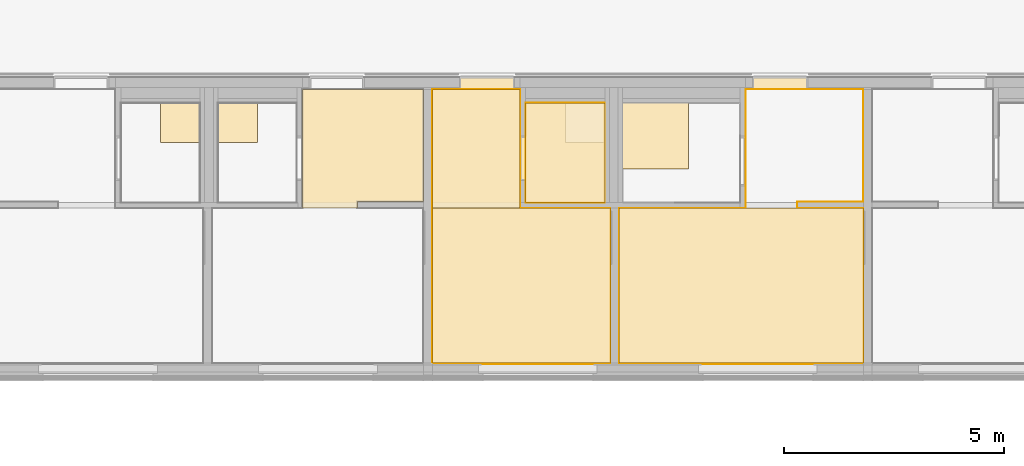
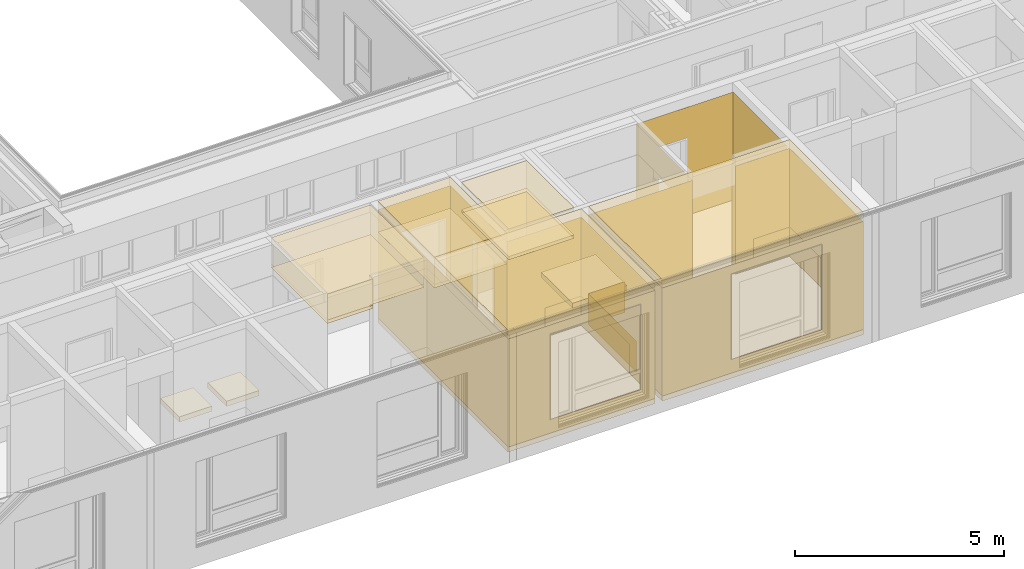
# One storey, part 185 of 222: 32 coverings.
"""IFC4 building model written with IfcOpenShell, lengths in metres."""

from ifc_helpers import new_model, entity, si_unit, converted_unit, derived_unit, frame, frame_2d, origin, origin_with_axes, place, context, subcontext, project, spatial, polyline, rectangle, outline, extrude, material, layer, layer_set, layer_usage, element, save


model = new_model("IFC4")

# Units and contexts
model_context = context("Model", 3, precision=1e-05, world=origin())
body_context = subcontext(model_context, "Body", "Model", "MODEL_VIEW")
ifc_project = project(units=[si_unit("LENGTHUNIT", "METRE"), si_unit("AREAUNIT", "SQUARE_METRE"), si_unit("VOLUMEUNIT", "CUBIC_METRE"), si_unit("MASSUNIT", "GRAM", prefix="KILO"), converted_unit("PLANEANGLEUNIT", "DEGREE", entity("IfcPlaneAngleMeasure", 0.0174532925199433), si_unit("PLANEANGLEUNIT", "RADIAN"), dimensions=[0, 0, 0, 0, 0, 0, 0]), derived_unit("THERMALTRANSMITTANCEUNIT", [(si_unit("POWERUNIT", "WATT"), 1), (si_unit("THERMODYNAMICTEMPERATUREUNIT", "KELVIN"), -1), (si_unit("LENGTHUNIT", "METRE"), -2)]), derived_unit("VOLUMETRICFLOWRATEUNIT", [(si_unit("LENGTHUNIT", "METRE"), 3), (converted_unit("TIMEUNIT", "hour", entity("IfcTimeMeasure", 3600.0), si_unit("TIMEUNIT", "SECOND"), dimensions=[0, 0, 1, 0, 0, 0, 0]), -1), (si_unit("LENGTHUNIT", "METRE"), -1)])], contexts=[model_context])

# Site, building, storey, space
site_placement = place(None, origin())
site = spatial("IfcSite", under=ifc_project, at=site_placement, Name="Psychiatrie Neubau Wunstorf", CompositionType="ELEMENT")
building_placement = place(site_placement, origin())
building = spatial("IfcBuilding", under=site, at=building_placement, Name="Neubau H2 Stationsgebäude", CompositionType="ELEMENT")
storey_placement = place(building_placement, frame((0.0, 0.0, 3.6)))
storey = spatial("IfcBuildingStorey", under=building, at=storey_placement, Name="H2 Ebene +1", CompositionType="ELEMENT", Elevation=3.6)
space_1_placement = place(storey_placement, frame((90.3499999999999, -1.16399999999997, 0.0)))
space_1 = spatial("IfcSpace", under=storey, at=space_1_placement, Name="WUN-H2-E01-092", CompositionType="ELEMENT")

# Coverings
ifc_material_1 = material(Name="84")
ifc_layer_1 = layer(ifc_material_1, 0.001)
ifc_layer_set_1 = layer_set([ifc_layer_1])
ifc_layer_usage_1 = layer_usage(ifc_layer_set_1, "AXIS3", "POSITIVE", 0.0)
covering_1_placement = place(space_1_placement, frame((0.0, 1.22449999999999, 0.1)))
element("IfcCovering", 1, at=covering_1_placement, inside=space_1, material=ifc_layer_usage_1, Name="Acrovyn", PredefinedType="CLADDING", context=body_context, shape_type="SweptSolid", body=[
    extrude(rectangle(XDim=1.0, YDim=0.9, at=frame_2d((0.5, -0.45), x_axis=(1.0, 0.0))), frame((1.0, 2.3, 0.0), z_axis=(0.0, -1.0, 0.0), x_axis=(-1.0, 0.0, 0.0)), (0.0, 0.0, 1.0), 0.001),
    extrude(rectangle(XDim=2.3, YDim=0.9, at=frame_2d((1.15, -0.45), x_axis=(1.0, 0.0))), frame((0.0, 2.3, 0.0), z_axis=(1.0, 0.0, 0.0), x_axis=(0.0, -1.0, 0.0)), (0.0, 0.0, 1.0), 0.001),
])
ifc_material_2 = material(Name="84")
ifc_layer_2 = layer(ifc_material_2, 0.001)
ifc_layer_set_2 = layer_set([ifc_layer_2])
ifc_layer_usage_2 = layer_usage(ifc_layer_set_2, "AXIS3", "POSITIVE", 0.0)
covering_2_placement = place(space_1_placement, frame((4.55000000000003, 1.2245, 0.1)))
element("IfcCovering", 2, at=covering_2_placement, inside=space_1, material=ifc_layer_usage_2, Name="Acrovyn", PredefinedType="CLADDING", context=body_context, shape_type="SweptSolid", body=[
    extrude(rectangle(XDim=0.9, YDim=1.0, at=frame_2d((-0.5, -0.45), x_axis=(0.0, -1.0))), frame((0.0, 2.3, 0.0), z_axis=(4.54747350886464e-16, -1.0, 0.0), x_axis=(-1.0, -4.54747350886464e-16, 0.0)), (0.0, 0.0, 1.0), 0.001),
    extrude(rectangle(XDim=0.9, YDim=2.3, at=frame_2d((-1.15, -0.45), x_axis=(0.0, -1.0))), frame((1.0, 2.3, 0.0), z_axis=(-1.0, 0.0, 0.0), x_axis=(0.0, 1.0, 0.0)), (0.0, 0.0, 1.0), 0.001),
])
ifc_material_3 = material(Name="Ku1")
ifc_layer_3 = layer(ifc_material_3, 0.15)
ifc_layer_set_3 = layer_set([ifc_layer_3])
ifc_layer_usage_3 = layer_usage(ifc_layer_set_3, "AXIS3", "POSITIVE", 0.0)
covering_3_placement = place(space_1_placement, origin())
element("IfcCovering", 3, at=covering_3_placement, inside=space_1, material=ifc_layer_usage_3, Name="PVC Bahnenware Holzoptik", PredefinedType="FLOORING", context=body_context, shape_type="SweptSolid", body=[
    extrude(rectangle(XDim=0.272, YDim=1.26, at=frame_2d((-0.63, 0.136), x_axis=(0.0, 1.0))), frame((4.28500004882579, 6.22450000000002, 0.0), z_axis=(0.0, 0.0, 1.0), x_axis=(1.0, 0.0, 0.0)), (0.0, 0.0, 1.0), 0.15),
    extrude(outline(polyline([(4.05000000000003, 3.52449999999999), (4.05000000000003, 3.67449999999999), (5.55000000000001, 3.67449999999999), (5.55000000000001, 6.22449999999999), (2.87500004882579, 6.22449999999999), (2.87500004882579, 3.52449999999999), (0.0, 3.52449999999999), (0.0, 0.0), (5.55000000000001, 0.0), (5.55000000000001, 3.52449999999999), (4.05000000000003, 3.52449999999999)])), origin_with_axes(), (0.0, 0.0, 1.0), 0.15),
])
ifc_material_4 = material()
ifc_layer_4 = layer(ifc_material_4, 0.036)
ifc_layer_set_4 = layer_set([ifc_layer_4])
ifc_layer_usage_4 = layer_usage(ifc_layer_set_4, "AXIS3", "POSITIVE", 0.0)
covering_4_placement = place(space_1_placement, frame((0.0, 0.0, 3.55)))
element("IfcCovering", 4, at=covering_4_placement, inside=space_1, material=ifc_layer_usage_4, Name="Gipsfaserplatten 2-lagig (BSK)", PredefinedType="CEILING", context=body_context, shape_type="SweptSolid", body=[
    extrude(rectangle(XDim=3.52449999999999, YDim=5.55000000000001, at=frame_2d((-2.77500000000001, 1.76224999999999), x_axis=(0.0, 1.0))), frame((5.55000000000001, 3.52449999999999, 0.0), z_axis=(0.0, 0.0, -1.0), x_axis=(1.0, 0.0, 0.0)), (0.0, 0.0, 1.0), 0.036),
])
ifc_material_5 = material(Name="Installationshöhe")
ifc_layer_5 = layer(ifc_material_5, 0.114)
ifc_layer_set_5 = layer_set([ifc_layer_5])
ifc_layer_usage_5 = layer_usage(ifc_layer_set_5, "AXIS3", "POSITIVE", 0.0)
covering_5_placement = place(space_1_placement, frame((0.0, 0.0, 3.514)))
element("IfcCovering", 5, at=covering_5_placement, inside=space_1, material=ifc_layer_usage_5, Name="Gipsfaserplatten 2-lagig (BSK)", PredefinedType="CEILING", context=body_context, shape_type="SweptSolid", body=[
    extrude(rectangle(XDim=3.52449999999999, YDim=5.55000000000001, at=frame_2d((-2.77500000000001, 1.76224999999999), x_axis=(0.0, 1.0))), frame((5.55000000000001, 3.52449999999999, 0.0), z_axis=(0.0, 0.0, -1.0), x_axis=(1.0, 0.0, 0.0)), (0.0, 0.0, 1.0), 0.114),
])
ifc_material_6 = material(Name="A1")
ifc_layer_6 = layer(ifc_material_6, 0.1)
ifc_layer_set_6 = layer_set([ifc_layer_6])
ifc_layer_usage_6 = layer_usage(ifc_layer_set_6, "AXIS3", "POSITIVE", 0.0)
covering_6_placement = place(space_1_placement, frame((0.0, 0.0, 3.4)))
element("IfcCovering", 6, at=covering_6_placement, inside=space_1, material=ifc_layer_usage_6, Name="Gipsfaserplatten 2-lagig (BSK)", PredefinedType="CEILING", context=body_context, shape_type="SweptSolid", body=[
    extrude(rectangle(XDim=3.52449999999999, YDim=5.55000000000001, at=frame_2d((-2.77500000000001, 1.76224999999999), x_axis=(0.0, 1.0))), frame((5.55000000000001, 3.52449999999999, 0.0), z_axis=(0.0, 0.0, -1.0), x_axis=(1.0, 0.0, 0.0)), (0.0, 0.0, 1.0), 0.1),
])
ifc_material_7 = material(Name="D1")
ifc_layer_7 = layer(ifc_material_7, 0.001)
ifc_layer_set_7 = layer_set([ifc_layer_7])
ifc_layer_usage_7 = layer_usage(ifc_layer_set_7, "AXIS3", "POSITIVE", 0.0)
covering_7_placement = place(space_1_placement, frame((0.0, 0.0, 3.3)))
element("IfcCovering", 7, at=covering_7_placement, inside=space_1, material=ifc_layer_usage_7, Name="Gipsfaserplatten 2-lagig (BSK)", PredefinedType="CEILING", context=body_context, shape_type="SweptSolid", body=[
    extrude(rectangle(XDim=3.52449999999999, YDim=5.55000000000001, at=frame_2d((-2.77500000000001, 1.76224999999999), x_axis=(0.0, 1.0))), frame((5.55000000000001, 3.52449999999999, 0.0), z_axis=(0.0, 0.0, -1.0), x_axis=(1.0, 0.0, 0.0)), (0.0, 0.0, 1.0), 0.001),
])
ifc_material_8 = material(Name="49")
ifc_layer_8 = layer(ifc_material_8, 0.001)
ifc_layer_set_8 = layer_set([ifc_layer_8])
ifc_layer_usage_8 = layer_usage(ifc_layer_set_8, "AXIS3", "POSITIVE", 0.0)
covering_8_placement = place(space_1_placement, frame((0.0, -0.025, 0.15)))
element("IfcCovering", 8, at=covering_8_placement, inside=space_1, material=ifc_layer_usage_8, PredefinedType="CLADDING", context=body_context, shape_type="SweptSolid", body=[
    extrude(outline(polyline([(0.0, 3.15), (1.2245, 3.15), (1.2245, 2.3), (3.52449999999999, 2.3), (3.52449999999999, 0.0), (0.0, 0.0), (0.0, 3.15)])), frame((5.55000000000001, 0.0249999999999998, 3.15), z_axis=(-1.0, -1.39844789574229e-15, -1.21857413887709e-15), x_axis=(-1.39844789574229e-15, 1.0, 0.0)), (0.0, 0.0, 1.0), 0.001),
    extrude(outline(polyline([(0.999999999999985, 3.15), (1.49999999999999, 3.15), (1.49999999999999, 0.0), (0.0, 0.0), (0.0, 2.3), (0.999999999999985, 2.3), (0.999999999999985, 3.15)])), frame((5.55000000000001, 3.54949999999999, 3.15), z_axis=(-1.87087966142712e-15, -1.0, -7.92505756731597e-16), x_axis=(-1.0, 1.87087966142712e-15, 0.0)), (0.0, 0.0, 1.0), 0.001),
    extrude(rectangle(XDim=0.149999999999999, YDim=3.15, at=frame_2d((0.0749999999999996, -1.575), x_axis=(1.0, 0.0))), frame((4.05000000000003, 3.54949999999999, 0.0), z_axis=(-1.0, 0.0, 0.0), x_axis=(0.0, 1.0, 0.0)), (0.0, 0.0, 1.0), 0.001),
    extrude(rectangle(XDim=1.49999999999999, YDim=3.15, at=frame_2d((0.749999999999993, -1.575), x_axis=(1.0, 0.0))), frame((4.05000000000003, 3.69949999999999, 0.0), z_axis=(0.0, 1.0, 0.0), x_axis=(1.0, 0.0, 0.0)), (0.0, 0.0, 1.0), 0.001),
    extrude(rectangle(XDim=2.55, YDim=3.15, at=frame_2d((1.275, -1.575), x_axis=(1.0, 0.0))), frame((5.55000000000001, 3.69949999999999, 0.0), z_axis=(-1.0, 0.0, 0.0), x_axis=(0.0, 1.0, 0.0)), (0.0, 0.0, 1.0), 0.001),
    extrude(outline(polyline([(0.0, 3.15), (1.26499995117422, 3.15), (1.26499995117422, 0.89), (2.52499995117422, 0.89), (2.52499995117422, 3.15), (2.67499995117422, 3.15), (2.67499995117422, 0.0), (0.0, 0.0), (0.0, 3.15)])), frame((5.55000000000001, 6.2495, 3.15), z_axis=(0.0, -1.0, 2.9937284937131e-15), x_axis=(-1.0, 0.0, 0.0)), (0.0, 0.0, 1.0), 0.001),
    extrude(outline(polyline([(0.0, 3.15), (1.06499999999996, 3.15), (1.06499999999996, 0.89), (2.19999999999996, 0.89), (2.19999999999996, 3.15), (2.7, 3.15), (2.7, 0.0), (0.0, 0.0), (0.0, 3.15)])), frame((2.87500004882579, 6.24949999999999, 3.15), z_axis=(1.0, 0.0, 0.0), x_axis=(0.0, -1.0, 0.0)), (0.0, 0.0, 1.0), 0.001),
    extrude(outline(polyline([(0.0, 3.15), (1.87500004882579, 3.15), (1.87500004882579, 2.3), (2.87500004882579, 2.3), (2.87500004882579, 0.0), (0.0, 0.0), (0.0, 3.15)])), frame((2.87500004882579, 3.54949999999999, 3.15), z_axis=(0.0, -1.0, 0.0), x_axis=(-1.0, 0.0, 0.0)), (0.0, 0.0, 1.0), 0.001),
    extrude(outline(polyline([(2.3, 3.15), (3.52449999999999, 3.15), (3.52449999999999, 0.0), (0.0, 0.0), (0.0, 2.3), (2.3, 2.3), (2.3, 3.15)])), frame((0.0, 3.54949999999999, 3.15), z_axis=(1.0, 0.0, 0.0), x_axis=(0.0, -1.0, 0.0)), (0.0, 0.0, 1.0), 0.001),
    extrude(outline(polyline([(0.0, 3.15), (5.55000000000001, 3.15), (5.55000000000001, 0.0), (0.0, 0.0), (0.0, 3.15)]), holes=[polyline([(4.40000004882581, 2.75), (1.90000004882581, 2.75), (1.90000004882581, 0.25), (4.40000004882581, 0.25), (4.40000004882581, 2.75)])]), frame((0.0, 0.0249999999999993, 3.15), z_axis=(1.91613757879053e-16, 1.0, 0.0), x_axis=(1.0, -1.91613757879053e-16, 0.0)), (0.0, 0.0, 1.0), 0.001),
    extrude(rectangle(XDim=0.0249999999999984, YDim=2.5, at=frame_2d((0.0124999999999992, -1.25), x_axis=(1.0, 0.0))), frame((1.90000004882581, 0.0249999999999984, 0.4), z_axis=(1.0, 0.0, 0.0), x_axis=(0.0, -1.0, 0.0)), (0.0, 0.0, 1.0), 0.001),
    extrude(rectangle(XDim=2.5, YDim=0.0249999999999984, at=frame_2d((-1.25, 0.0124999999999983), x_axis=(-1.0, -7.27595761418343e-16))), frame((4.40000004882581, 0.0249999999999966, 2.9), z_axis=(-1.81898940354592e-16, -1.81898940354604e-14, -1.0), x_axis=(1.0, 0.0, 0.0)), (0.0, 0.0, 1.0), 0.001),
    extrude(rectangle(XDim=2.5, YDim=0.0249999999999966, at=frame_2d((-0.0124999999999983, -1.25), x_axis=(0.0, -1.0))), frame((4.40000004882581, 0.0249999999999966, 0.4), z_axis=(-1.0, 0.0, 0.0), x_axis=(0.0, 1.0, 0.0)), (0.0, 0.0, 1.0), 0.001),
])

# Space
space_2_placement = place(storey_placement, frame((86.1000000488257, -1.16399999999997, 0.0)))
space_2 = spatial("IfcSpace", under=storey, at=space_2_placement, Name="WUN-H2-E01-093", CompositionType="ELEMENT")

# Coverings
ifc_material_9 = material(Name="84")
ifc_layer_9 = layer(ifc_material_9, 0.001)
ifc_layer_set_9 = layer_set([ifc_layer_9])
ifc_layer_usage_9 = layer_usage(ifc_layer_set_9, "AXIS3", "POSITIVE", 0.0)
covering_9_placement = place(space_2_placement, frame((3.04999995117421, 1.2245, 0.1)))
element("IfcCovering", 9, at=covering_9_placement, inside=space_2, material=ifc_layer_usage_9, Name="Acrovyn", PredefinedType="CLADDING", context=body_context, shape_type="SweptSolid", body=[
    extrude(rectangle(XDim=0.9, YDim=1.0, at=frame_2d((-0.5, -0.45), x_axis=(0.0, -1.0))), frame((0.0, 2.3, 0.0), z_axis=(4.54747350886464e-16, -1.0, 0.0), x_axis=(-1.0, -4.54747350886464e-16, 0.0)), (0.0, 0.0, 1.0), 0.001),
    extrude(rectangle(XDim=0.9, YDim=2.3, at=frame_2d((-1.15, -0.45), x_axis=(0.0, -1.0))), frame((1.0, 2.3, 0.0), z_axis=(-1.0, 0.0, 0.0), x_axis=(0.0, 1.0, 0.0)), (0.0, 0.0, 1.0), 0.001),
])
ifc_material_10 = material()
ifc_layer_10 = layer(ifc_material_10, 0.036)
ifc_layer_set_10 = layer_set([ifc_layer_10])
ifc_layer_usage_10 = layer_usage(ifc_layer_set_10, "AXIS3", "POSITIVE", 0.0)
covering_10_placement = place(space_2_placement, frame((0.0, 3.52449999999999, 3.55)))
element("IfcCovering", 10, at=covering_10_placement, inside=space_2, material=ifc_layer_usage_10, Name="Gipsfaserplatten 2-lagig (BSK)", PredefinedType="CEILING", context=body_context, shape_type="SweptSolid", body=[
    extrude(rectangle(XDim=2.7, YDim=2.0, at=frame_2d((-1.0, 1.35), x_axis=(0.0, 1.0))), frame((2.0, 2.7, 0.0), z_axis=(0.0, 0.0, -1.0), x_axis=(1.0, 0.0, 0.0)), (0.0, 0.0, 1.0), 0.036),
])
ifc_material_11 = material(Name="Installationshöhe")
ifc_layer_11 = layer(ifc_material_11, 0.764)
ifc_layer_set_11 = layer_set([ifc_layer_11])
ifc_layer_usage_11 = layer_usage(ifc_layer_set_11, "AXIS3", "POSITIVE", 0.0)
covering_11_placement = place(space_2_placement, frame((0.0, 3.52449999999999, 3.514)))
element("IfcCovering", 11, at=covering_11_placement, inside=space_2, material=ifc_layer_usage_11, Name="Gipsfaserplatten 2-lagig (BSK)", PredefinedType="CEILING", context=body_context, shape_type="SweptSolid", body=[
    extrude(rectangle(XDim=2.7, YDim=2.0, at=frame_2d((-1.0, 1.35), x_axis=(0.0, 1.0))), frame((2.0, 2.7, 0.0), z_axis=(0.0, 0.0, -1.0), x_axis=(1.0, 0.0, 0.0)), (0.0, 0.0, 1.0), 0.764),
])
ifc_material_12 = material(Name="A1")
ifc_layer_12 = layer(ifc_material_12, 0.1)
ifc_layer_set_12 = layer_set([ifc_layer_12])
ifc_layer_usage_12 = layer_usage(ifc_layer_set_12, "AXIS3", "POSITIVE", 0.0)
covering_12_placement = place(space_2_placement, frame((0.0, 3.52449999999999, 2.75)))
element("IfcCovering", 12, at=covering_12_placement, inside=space_2, material=ifc_layer_usage_12, Name="Gipsfaserplatten 2-lagig (BSK)", PredefinedType="CEILING", context=body_context, shape_type="SweptSolid", body=[
    extrude(rectangle(XDim=2.7, YDim=2.0, at=frame_2d((-1.0, 1.35), x_axis=(0.0, 1.0))), frame((2.0, 2.7, 0.0), z_axis=(0.0, 0.0, -1.0), x_axis=(1.0, 0.0, 0.0)), (0.0, 0.0, 1.0), 0.1),
])
ifc_material_13 = material(Name="D1")
ifc_layer_13 = layer(ifc_material_13, 0.001)
ifc_layer_set_13 = layer_set([ifc_layer_13])
ifc_layer_usage_13 = layer_usage(ifc_layer_set_13, "AXIS3", "POSITIVE", 0.0)
covering_13_placement = place(space_2_placement, frame((0.0, 3.52449999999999, 2.65)))
element("IfcCovering", 13, at=covering_13_placement, inside=space_2, material=ifc_layer_usage_13, Name="Gipsfaserplatten 2-lagig (BSK)", PredefinedType="CEILING", context=body_context, shape_type="SweptSolid", body=[
    extrude(rectangle(XDim=2.7, YDim=2.0, at=frame_2d((-1.0, 1.35), x_axis=(0.0, 1.0))), frame((2.0, 2.7, 0.0), z_axis=(0.0, 0.0, -1.0), x_axis=(1.0, 0.0, 0.0)), (0.0, 0.0, 1.0), 0.001),
])
ifc_material_14 = material(Name="Ku1")
ifc_layer_14 = layer(ifc_material_14, 0.15)
ifc_layer_set_14 = layer_set([ifc_layer_14])
ifc_layer_usage_14 = layer_usage(ifc_layer_set_14, "AXIS3", "POSITIVE", 0.0)
covering_14_placement = place(space_2_placement, origin())
element("IfcCovering", 14, at=covering_14_placement, inside=space_2, material=ifc_layer_usage_14, Name="PVC Bahnenware Holzoptik", PredefinedType="FLOORING", context=body_context, shape_type="SweptSolid", body=[
    extrude(rectangle(XDim=0.272, YDim=1.26, at=frame_2d((-0.63, 0.136), x_axis=(0.0, 1.0))), frame((1.875, 6.22450000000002, 0.0), z_axis=(0.0, 0.0, 1.0), x_axis=(1.0, 0.0, 0.0)), (0.0, 0.0, 1.0), 0.15),
    extrude(outline(polyline([(2.0, 3.52449999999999), (2.0, 6.22450000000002), (0.0, 6.22450000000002), (0.0, 0.0), (4.04999995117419, 0.0), (4.04999995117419, 3.52449999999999), (2.0, 3.52449999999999)])), origin_with_axes(), (0.0, 0.0, 1.0), 0.15),
])
ifc_material_15 = material()
ifc_layer_15 = layer(ifc_material_15, 0.036)
ifc_layer_set_15 = layer_set([ifc_layer_15])
ifc_layer_usage_15 = layer_usage(ifc_layer_set_15, "AXIS3", "POSITIVE", 0.0)
covering_15_placement = place(space_2_placement, frame((0.0, 0.0, 3.55)))
element("IfcCovering", 15, at=covering_15_placement, inside=space_2, material=ifc_layer_usage_15, Name="Gipsfaserplatten 2-lagig (BSK)", PredefinedType="CEILING", context=body_context, shape_type="SweptSolid", body=[
    extrude(rectangle(XDim=4.04999995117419, YDim=3.52449999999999, at=frame_2d((2.0249999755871, 1.76225), x_axis=(1.0, 1.12283297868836e-16))), frame((0.0, 3.52449999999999, 0.0), z_axis=(0.0, 0.0, -1.0), x_axis=(1.0, 0.0, 0.0)), (0.0, 0.0, 1.0), 0.036),
])
ifc_material_16 = material(Name="Installationshöhe")
ifc_layer_16 = layer(ifc_material_16, 0.114)
ifc_layer_set_16 = layer_set([ifc_layer_16])
ifc_layer_usage_16 = layer_usage(ifc_layer_set_16, "AXIS3", "POSITIVE", 0.0)
covering_16_placement = place(space_2_placement, frame((0.0, 0.0, 3.514)))
element("IfcCovering", 16, at=covering_16_placement, inside=space_2, material=ifc_layer_usage_16, Name="Gipsfaserplatten 2-lagig (BSK)", PredefinedType="CEILING", context=body_context, shape_type="SweptSolid", body=[
    extrude(rectangle(XDim=4.04999995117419, YDim=3.52449999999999, at=frame_2d((2.0249999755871, 1.76225), x_axis=(1.0, 1.12283297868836e-16))), frame((0.0, 3.52449999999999, 0.0), z_axis=(0.0, 0.0, -1.0), x_axis=(1.0, 0.0, 0.0)), (0.0, 0.0, 1.0), 0.114),
])
ifc_material_17 = material(Name="A1")
ifc_layer_17 = layer(ifc_material_17, 0.1)
ifc_layer_set_17 = layer_set([ifc_layer_17])
ifc_layer_usage_17 = layer_usage(ifc_layer_set_17, "AXIS3", "POSITIVE", 0.0)
covering_17_placement = place(space_2_placement, frame((0.0, 0.0, 3.4)))
element("IfcCovering", 17, at=covering_17_placement, inside=space_2, material=ifc_layer_usage_17, Name="Gipsfaserplatten 2-lagig (BSK)", PredefinedType="CEILING", context=body_context, shape_type="SweptSolid", body=[
    extrude(rectangle(XDim=4.04999995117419, YDim=3.52449999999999, at=frame_2d((2.0249999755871, 1.76225), x_axis=(1.0, 1.12283297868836e-16))), frame((0.0, 3.52449999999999, 0.0), z_axis=(0.0, 0.0, -1.0), x_axis=(1.0, 0.0, 0.0)), (0.0, 0.0, 1.0), 0.1),
])
ifc_material_18 = material(Name="D1")
ifc_layer_18 = layer(ifc_material_18, 0.001)
ifc_layer_set_18 = layer_set([ifc_layer_18])
ifc_layer_usage_18 = layer_usage(ifc_layer_set_18, "AXIS3", "POSITIVE", 0.0)
covering_18_placement = place(space_2_placement, frame((0.0, 0.0, 3.3)))
element("IfcCovering", 18, at=covering_18_placement, inside=space_2, material=ifc_layer_usage_18, Name="Gipsfaserplatten 2-lagig (BSK)", PredefinedType="CEILING", context=body_context, shape_type="SweptSolid", body=[
    extrude(rectangle(XDim=4.04999995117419, YDim=3.52449999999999, at=frame_2d((2.0249999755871, 1.76225), x_axis=(1.0, 1.12283297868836e-16))), frame((0.0, 3.52449999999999, 0.0), z_axis=(0.0, 0.0, -1.0), x_axis=(1.0, 0.0, 0.0)), (0.0, 0.0, 1.0), 0.001),
])
ifc_material_19 = material(Name="49")
ifc_layer_19 = layer(ifc_material_19, 0.001)
ifc_layer_set_19 = layer_set([ifc_layer_19])
ifc_layer_usage_19 = layer_usage(ifc_layer_set_19, "AXIS3", "POSITIVE", 0.0)
covering_19_placement = place(space_2_placement, frame((0.0, -0.025, 0.15)))
element("IfcCovering", 19, at=covering_19_placement, inside=space_2, material=ifc_layer_usage_19, PredefinedType="CLADDING", context=body_context, shape_type="SweptSolid", body=[
    extrude(outline(polyline([(0.0, 3.15), (1.2245, 3.15), (1.2245, 2.3), (3.52449999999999, 2.3), (3.52449999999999, 0.0), (0.0, 0.0), (0.0, 3.15)])), frame((4.04999995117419, 0.025, 3.15), z_axis=(-1.0, -1.39844789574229e-15, -1.21857413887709e-15), x_axis=(-1.39844789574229e-15, 1.0, 0.0)), (0.0, 0.0, 1.0), 0.001),
    extrude(outline(polyline([(0.999999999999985, 3.15), (2.04999995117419, 3.15), (2.04999995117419, 0.0), (0.0, 0.0), (0.0, 2.3), (0.999999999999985, 2.3), (0.999999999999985, 3.15)])), frame((4.04999995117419, 3.54949999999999, 3.15), z_axis=(7.23784256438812e-16, -1.0, -8.51510889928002e-16), x_axis=(-1.0, -7.23784256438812e-16, 0.0)), (0.0, 0.0, 1.0), 0.001),
    extrude(outline(polyline([(0.0, 3.15), (0.62500000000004, 3.15), (0.62500000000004, 0.89), (1.63500000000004, 0.89), (1.63500000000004, 3.15), (2.70000000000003, 3.15), (2.70000000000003, 0.0), (0.0, 0.0), (0.0, 3.15)])), frame((2.0, 3.54949999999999, 3.15), z_axis=(-1.0, 0.0, 0.0), x_axis=(0.0, 1.0, 0.0)), (0.0, 0.0, 1.0), 0.001),
    extrude(outline(polyline([(0.0, 3.15), (0.125, 3.15), (0.125, 0.89), (1.385, 0.89), (1.385, 3.15), (2.0, 3.15), (2.0, 0.0), (0.0, 0.0), (0.0, 3.15)])), frame((2.0, 6.24950000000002, 3.15), z_axis=(0.0, -1.0, -1.53955937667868e-16), x_axis=(-1.0, 0.0, 0.0)), (0.0, 0.0, 1.0), 0.001),
    extrude(rectangle(XDim=6.22450000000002, YDim=3.15, at=frame_2d((3.11225000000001, -1.575), x_axis=(1.0, 0.0))), frame((0.0, 6.24950000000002, 0.0), z_axis=(1.0, 0.0, 0.0), x_axis=(0.0, -1.0, 0.0)), (0.0, 0.0, 1.0), 0.001),
    extrude(outline(polyline([(0.0, 3.15), (4.04999995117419, 3.15), (4.04999995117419, 0.0), (0.0, 0.0), (0.0, 3.15)]), holes=[polyline([(3.65, 2.75), (1.15, 2.75), (1.15, 0.25), (3.65, 0.25), (3.65, 2.75)])]), frame((0.0, 0.0250000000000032, 3.15), z_axis=(2.39246273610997e-16, 1.0, 0.0), x_axis=(1.0, -2.39246273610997e-16, 0.0)), (0.0, 0.0, 1.0), 0.001),
    extrude(rectangle(XDim=0.0250000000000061, YDim=2.5, at=frame_2d((0.012500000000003, -1.25), x_axis=(1.0, 0.0))), frame((1.15000000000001, 0.0250000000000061, 0.4), z_axis=(1.0, -2.91038304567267e-13, 2.91038304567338e-15), x_axis=(-2.91038304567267e-13, -1.0, 0.0)), (0.0, 0.0, 1.0), 0.001),
    extrude(rectangle(XDim=2.5, YDim=0.0250000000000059, at=frame_2d((-1.25000000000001, 0.012500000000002), x_axis=(-1.0, -7.27595761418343e-16))), frame((3.65, 0.0250000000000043, 2.9), z_axis=(1.81898940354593e-16, 1.81898940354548e-14, -1.0), x_axis=(1.0, 0.0, 0.0)), (0.0, 0.0, 1.0), 0.001),
    extrude(rectangle(XDim=2.5, YDim=0.0250000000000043, at=frame_2d((-0.0125000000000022, -1.25), x_axis=(0.0, -1.0))), frame((3.65, 0.0250000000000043, 0.4), z_axis=(-1.0, 0.0, 0.0), x_axis=(0.0, 1.0, 0.0)), (0.0, 0.0, 1.0), 0.001),
])

# Space
space_3_placement = place(storey_placement, frame((81.1, -1.16399999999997, 0.0)))
space_3 = spatial("IfcSpace", under=storey, at=space_3_placement, Name="WUN-H2-E01-094", CompositionType="ELEMENT")

# Coverings
ifc_material_20 = material(Name="Installationshöhe")
ifc_layer_20 = layer(ifc_material_20, 0.764)
ifc_layer_set_20 = layer_set([ifc_layer_20])
ifc_layer_usage_20 = layer_usage(ifc_layer_set_20, "AXIS3", "POSITIVE", 0.0)
covering_20_placement = place(space_3_placement, frame((2.04999999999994, 3.52450000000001, 3.514)))
element("IfcCovering", 20, at=covering_20_placement, inside=space_3, material=ifc_layer_usage_20, Name="Gipsfaserplatten 2-lagig (BSK)", PredefinedType="CEILING", context=body_context, shape_type="SweptSolid", body=[
    extrude(outline(polyline([(0.0, 0.0), (2.75000004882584, 0.0), (2.75000004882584, 2.55000000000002), (1.25000004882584, 2.55000000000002), (1.25000004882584, 2.7), (0.0, 2.7), (0.0, 0.0)])), frame((0.0, 2.7, 0.0), z_axis=(0.0, 0.0, -1.0), x_axis=(1.0, 0.0, 0.0)), (0.0, 0.0, 1.0), 0.764),
])
ifc_material_21 = material(Name="A1")
ifc_layer_21 = layer(ifc_material_21, 0.1)
ifc_layer_set_21 = layer_set([ifc_layer_21])
ifc_layer_usage_21 = layer_usage(ifc_layer_set_21, "AXIS3", "POSITIVE", 0.0)
covering_21_placement = place(space_3_placement, frame((2.04999999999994, 3.52450000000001, 2.75)))
element("IfcCovering", 21, at=covering_21_placement, inside=space_3, material=ifc_layer_usage_21, Name="Gipsfaserplatten 2-lagig (BSK)", PredefinedType="CEILING", context=body_context, shape_type="SweptSolid", body=[
    extrude(outline(polyline([(0.0, 0.0), (2.75000004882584, 0.0), (2.75000004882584, 2.55000000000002), (1.25000004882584, 2.55000000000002), (1.25000004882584, 2.7), (0.0, 2.7), (0.0, 0.0)])), frame((0.0, 2.7, 0.0), z_axis=(0.0, 0.0, -1.0), x_axis=(1.0, 0.0, 0.0)), (0.0, 0.0, 1.0), 0.1),
])
ifc_material_22 = material(Name="D1")
ifc_layer_22 = layer(ifc_material_22, 0.001)
ifc_layer_set_22 = layer_set([ifc_layer_22])
ifc_layer_usage_22 = layer_usage(ifc_layer_set_22, "AXIS3", "POSITIVE", 0.0)
covering_22_placement = place(space_3_placement, frame((2.04999999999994, 3.52450000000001, 2.65)))
element("IfcCovering", 22, at=covering_22_placement, inside=space_3, material=ifc_layer_usage_22, Name="Gipsfaserplatten 2-lagig (BSK)", PredefinedType="CEILING", context=body_context, shape_type="SweptSolid", body=[
    extrude(outline(polyline([(0.0, 0.0), (2.75000004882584, 0.0), (2.75000004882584, 2.55000000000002), (1.25000004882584, 2.55000000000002), (1.25000004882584, 2.7), (0.0, 2.7), (0.0, 0.0)])), frame((0.0, 2.7, 0.0), z_axis=(0.0, 0.0, -1.0), x_axis=(1.0, 0.0, 0.0)), (0.0, 0.0, 1.0), 0.001),
])

# Space
space_4_placement = place(storey_placement, frame((90.4250000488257, 2.48550005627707, 0.0)))
space_4 = spatial("IfcSpace", under=storey, at=space_4_placement, Name="WUN-H2-E01-092a", CompositionType="ELEMENT")

# Covering
ifc_material_23 = material(Name="Fl2")
ifc_layer_23 = layer(ifc_material_23, 0.15)
ifc_layer_set_23 = layer_set([ifc_layer_23])
ifc_layer_usage_23 = layer_usage(ifc_layer_set_23, "AXIS3", "POSITIVE", 0.0)
covering_23_placement = place(space_4_placement, frame((0.0, 0.76499994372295, 0.0)))
element("IfcCovering", 23, at=covering_23_placement, inside=space_4, material=ifc_layer_usage_23, Name="Fliesen Mosaik", PredefinedType="FLOORING", context=body_context, shape_type="SweptSolid", body=[
    extrude(rectangle(XDim=1.5, YDim=1.5, at=frame_2d((0.75, -0.75), x_axis=(0.0, -1.0))), frame((0.0, 1.5, 0.0), z_axis=(0.0, 0.0, 1.0), x_axis=(1.0, 0.0, 0.0)), (0.0, 0.0, 1.0), 0.15),
])

# Space
space_5_placement = place(storey_placement, frame((79.0249999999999, 2.48550000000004, 0.0)))
space_5 = spatial("IfcSpace", under=storey, at=space_5_placement, Name="WUN-H2-E01-095a", CompositionType="ELEMENT")

# Covering
ifc_material_24 = material(Name="Fl2")
ifc_layer_24 = layer(ifc_material_24, 0.15)
ifc_layer_set_24 = layer_set([ifc_layer_24])
ifc_layer_usage_24 = layer_usage(ifc_layer_set_24, "AXIS3", "POSITIVE", 0.0)
covering_24_placement = place(space_5_placement, frame((0.900000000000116, 1.36499999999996, 0.0)))
element("IfcCovering", 24, at=covering_24_placement, inside=space_5, material=ifc_layer_usage_24, Name="Fliesen Mosaik", PredefinedType="FLOORING", context=body_context, shape_type="SweptSolid", body=[
    extrude(rectangle(XDim=0.9, YDim=0.9, at=frame_2d((-0.45, -0.45), x_axis=(-1.0, 0.0))), frame((0.9, 0.9, 0.0), z_axis=(0.0, 0.0, 1.0), x_axis=(1.0, 0.0, 0.0)), (0.0, 0.0, 1.0), 0.15),
])

# Space
space_6_placement = place(storey_placement, frame((81.2249999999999, 2.48550000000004, 0.0)))
space_6 = spatial("IfcSpace", under=storey, at=space_6_placement, Name="WUN-H2-E01-094a", CompositionType="ELEMENT")

# Covering
ifc_material_25 = material(Name="Fl2")
ifc_layer_25 = layer(ifc_material_25, 0.15)
ifc_layer_set_25 = layer_set([ifc_layer_25])
ifc_layer_usage_25 = layer_usage(ifc_layer_set_25, "AXIS3", "POSITIVE", 0.0)
covering_25_placement = place(space_6_placement, frame((0.0, 1.36500000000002, 0.0)))
element("IfcCovering", 25, at=covering_25_placement, inside=space_6, material=ifc_layer_usage_25, Name="Fliesen Mosaik", PredefinedType="FLOORING", context=body_context, shape_type="SweptSolid", body=[
    extrude(rectangle(XDim=0.9, YDim=0.9, at=frame_2d((0.45, -0.45), x_axis=(0.0, -1.0))), frame((0.0, 0.9, 0.0), z_axis=(0.0, 0.0, 1.0), x_axis=(1.0, 0.0, 0.0)), (0.0, 0.0, 1.0), 0.15),
])

# Space
space_7_placement = place(storey_placement, frame((88.2250000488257, 2.48550000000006, 0.0)))
space_7 = spatial("IfcSpace", under=storey, at=space_7_placement, Name="WUN-H2-E01-093a", CompositionType="ELEMENT")

# Coverings
ifc_material_26 = material(Name="Fl1")
ifc_layer_26 = layer(ifc_material_26, 0.15)
ifc_layer_set_26 = layer_set([ifc_layer_26])
ifc_layer_usage_26 = layer_usage(ifc_layer_set_26, "AXIS3", "POSITIVE", 0.0)
covering_26_placement = place(space_7_placement, frame((-0.124999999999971, 0.0, 0.0)))
element("IfcCovering", 26, at=covering_26_placement, inside=space_7, material=ifc_layer_usage_26, Name="Fliesen", PredefinedType="FLOORING", context=body_context, shape_type="SweptSolid", body=[
    extrude(rectangle(XDim=0.125, YDim=1.01, at=frame_2d((0.0625, 0.505), x_axis=(1.0, 0.0))), frame((0.0, 0.5, 0.0), z_axis=(0.0, 0.0, 1.0), x_axis=(1.0, 0.0, 0.0)), (0.0, 0.0, 1.0), 0.15),
    extrude(outline(polyline([(0.0, 0.0), (1.79999999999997, 0.0), (1.79999999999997, 1.36499999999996), (0.899999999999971, 1.36499999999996), (0.899999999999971, 2.26499999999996), (0.0, 2.26499999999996), (0.0, 0.0)])), frame((0.124999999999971, 0.0, 0.0), z_axis=(0.0, 0.0, 1.0), x_axis=(1.0, 0.0, 0.0)), (0.0, 0.0, 1.0), 0.15),
])
ifc_material_27 = material()
ifc_layer_27 = layer(ifc_material_27, 0.036)
ifc_layer_set_27 = layer_set([ifc_layer_27])
ifc_layer_usage_27 = layer_usage(ifc_layer_set_27, "AXIS3", "POSITIVE", 0.0)
covering_27_placement = place(space_7_placement, frame((0.0, 0.0, 3.55)))
element("IfcCovering", 27, at=covering_27_placement, inside=space_7, material=ifc_layer_usage_27, Name="Gipsfaserplatten 2-lagig (BSK)", PredefinedType="CEILING", context=body_context, shape_type="SweptSolid", body=[
    extrude(rectangle(XDim=1.79999999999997, YDim=2.26499999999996, at=frame_2d((-0.899999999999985, -1.13249999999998), x_axis=(-1.0, 0.0))), frame((1.79999999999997, 0.0, 0.0), z_axis=(0.0, 0.0, -1.0), x_axis=(1.0, 0.0, 0.0)), (0.0, 0.0, 1.0), 0.036),
])
ifc_material_28 = material(Name="Installationshöhe")
ifc_layer_28 = layer(ifc_material_28, 0.764)
ifc_layer_set_28 = layer_set([ifc_layer_28])
ifc_layer_usage_28 = layer_usage(ifc_layer_set_28, "AXIS3", "POSITIVE", 0.0)
covering_28_placement = place(space_7_placement, frame((0.0, 0.0, 3.514)))
element("IfcCovering", 28, at=covering_28_placement, inside=space_7, material=ifc_layer_usage_28, Name="Gipsfaserplatten 2-lagig (BSK)", PredefinedType="CEILING", context=body_context, shape_type="SweptSolid", body=[
    extrude(rectangle(XDim=1.79999999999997, YDim=2.26499999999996, at=frame_2d((-0.899999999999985, -1.13249999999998), x_axis=(-1.0, 0.0))), frame((1.79999999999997, 0.0, 0.0), z_axis=(0.0, 0.0, -1.0), x_axis=(1.0, 0.0, 0.0)), (0.0, 0.0, 1.0), 0.764),
])
ifc_material_29 = material(Name="B")
ifc_layer_29 = layer(ifc_material_29, 0.1)
ifc_layer_set_29 = layer_set([ifc_layer_29])
ifc_layer_usage_29 = layer_usage(ifc_layer_set_29, "AXIS3", "POSITIVE", 0.0)
covering_29_placement = place(space_7_placement, frame((0.0, 0.0, 2.75)))
element("IfcCovering", 29, at=covering_29_placement, inside=space_7, material=ifc_layer_usage_29, Name="Gipskarton, imprägniert", PredefinedType="CEILING", context=body_context, shape_type="SweptSolid", body=[
    extrude(rectangle(XDim=1.79999999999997, YDim=2.26499999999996, at=frame_2d((-0.899999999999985, -1.13249999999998), x_axis=(-1.0, 0.0))), frame((1.79999999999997, 0.0, 0.0), z_axis=(0.0, 0.0, -1.0), x_axis=(1.0, 0.0, 0.0)), (0.0, 0.0, 1.0), 0.1),
])
ifc_material_30 = material(Name="D1")
ifc_layer_30 = layer(ifc_material_30, 0.001)
ifc_layer_set_30 = layer_set([ifc_layer_30])
ifc_layer_usage_30 = layer_usage(ifc_layer_set_30, "AXIS3", "POSITIVE", 0.0)
covering_30_placement = place(space_7_placement, frame((0.0, 0.0, 2.65)))
element("IfcCovering", 30, at=covering_30_placement, inside=space_7, material=ifc_layer_usage_30, Name="Gipsfaserplatten 2-lagig (BSK)", PredefinedType="CEILING", context=body_context, shape_type="SweptSolid", body=[
    extrude(rectangle(XDim=1.79999999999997, YDim=2.26499999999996, at=frame_2d((-0.899999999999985, -1.13249999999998), x_axis=(-1.0, 0.0))), frame((1.79999999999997, 0.0, 0.0), z_axis=(0.0, 0.0, -1.0), x_axis=(1.0, 0.0, 0.0)), (0.0, 0.0, 1.0), 0.001),
])
ifc_material_31 = material(Name="50")
ifc_layer_31 = layer(ifc_material_31, 0.001)
ifc_layer_set_31 = layer_set([ifc_layer_31])
ifc_layer_usage_31 = layer_usage(ifc_layer_set_31, "AXIS3", "POSITIVE", 0.0)
covering_31_placement = place(space_7_placement, frame((0.0, 0.0, 0.15)))
element("IfcCovering", 31, at=covering_31_placement, inside=space_7, material=ifc_layer_usage_31, PredefinedType="CLADDING", context=body_context, shape_type="SweptSolid", body=[
    extrude(outline(polyline([(0.0, 2.5), (0.0149999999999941, 2.5), (0.0149999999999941, 0.24), (1.02499999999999, 0.24), (1.02499999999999, 2.5), (1.525, 2.5), (1.525, 0.0), (0.0, 0.0), (0.0, 2.5)])), frame((0.0, 1.52499999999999, 2.5), z_axis=(1.0, 0.0, -3.00364472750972e-15), x_axis=(0.0, -1.0, 0.0)), (0.0, 0.0, 1.0), 0.001),
    extrude(rectangle(XDim=1.79999999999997, YDim=2.5, at=frame_2d((0.899999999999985, -1.25), x_axis=(1.0, 0.0))), frame((0.0, 0.0, 0.0), z_axis=(0.0, 1.0, 0.0), x_axis=(1.0, 0.0, 0.0)), (0.0, 0.0, 1.0), 0.001),
])
ifc_material_32 = material(Name="68")
ifc_layer_32 = layer(ifc_material_32, 0.01)
ifc_layer_set_32 = layer_set([ifc_layer_32])
ifc_layer_usage_32 = layer_usage(ifc_layer_set_32, "AXIS3", "POSITIVE", 0.0)
covering_32_placement = place(space_7_placement, frame((0.0, 0.0, 0.15)))
element("IfcCovering", 32, at=covering_32_placement, inside=space_7, material=ifc_layer_usage_32, Name="a-sh Wandbelag", PredefinedType="CLADDING", context=body_context, shape_type="SweptSolid", body=[
    extrude(rectangle(XDim=2.265, YDim=2.5, at=frame_2d((1.1325, -1.25), x_axis=(1.0, 0.0))), frame((1.80000000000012, 0.0, 0.0), z_axis=(-1.0, 0.0, 0.0), x_axis=(0.0, 1.0, 0.0)), (0.0, 0.0, 1.0), 0.01),
    extrude(rectangle(XDim=0.740000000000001, YDim=2.5, at=frame_2d((0.37, -1.25), x_axis=(1.0, 0.0))), frame((0.0, 2.26500000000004, 0.0), z_axis=(1.0, 0.0, 0.0), x_axis=(0.0, -1.0, 0.0)), (0.0, 0.0, 1.0), 0.01),
    extrude(rectangle(XDim=1.80000000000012, YDim=2.5, at=frame_2d((0.900000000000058, -1.25), x_axis=(1.0, 0.0))), frame((1.80000000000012, 2.265, 0.0), z_axis=(-1.97057185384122e-14, -1.0, 0.0), x_axis=(-1.0, 1.97057185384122e-14, 0.0)), (0.0, 0.0, 1.0), 0.01),
])

save(model, "model.ifc")
